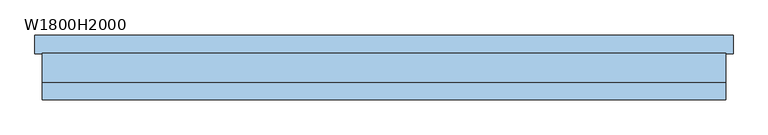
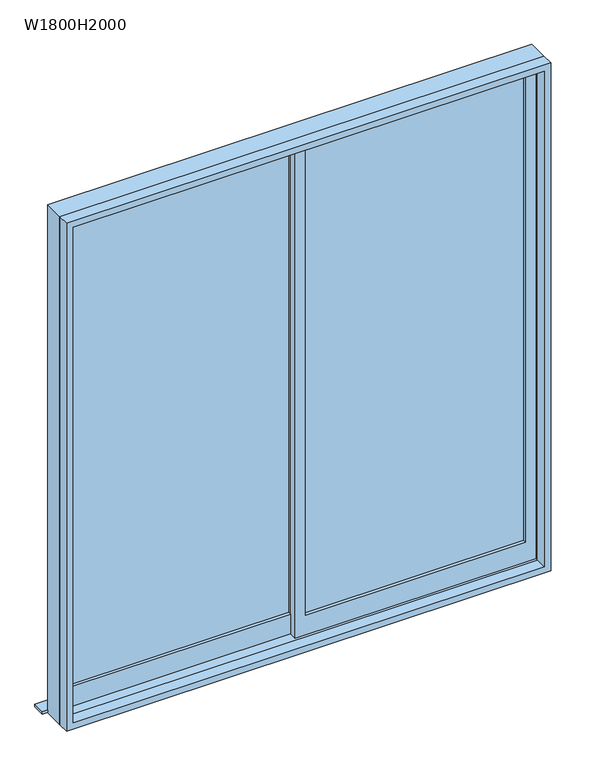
"""IFC4 building model written with IfcOpenShell, lengths in millimetres: window geometry, 引違い掃出窓_2枚 : W1800H2000."""

from ifc_helpers import new_model, si_unit, frame, origin, place, context, project, spatial, polyline, outline, extrude, source, transform, mapped, element, save


def w1800h2000_fa731eca(model_context):
    return source(origin(), model_context, "Body", "SweptSolid", [
        extrude(outline(polyline([(-20.0, 12.5), (-860.0, 12.5), (-860.0, 17.5), (-20.0, 17.5), (-20.0, 12.5)])), frame((0.0, 0.0, 80.0), z_axis=(0.0, 0.0, 1.0), x_axis=(1.0, 0.0, 0.0)), (0.0, 0.0, 1.0), 1880.0),
        extrude(outline(polyline([(860.0, -17.5), (20.0, -17.5), (20.0, -12.5), (860.0, -12.5), (860.0, -17.5)])), frame((0.0, 0.0, 80.0), z_axis=(0.0, 0.0, 1.0), x_axis=(1.0, 0.0, 0.0)), (0.0, 0.0, 1.0), 1880.0),
        extrude(outline(polyline([(2000.0, -20.0), (0.0, -20.0), (0.0, 900.0), (2000.0, 900.0), (2000.0, -20.0)]), holes=[polyline([(80.0, 860.0), (80.0, 20.0), (1960.0, 20.0), (1960.0, 860.0), (80.0, 860.0)])]), frame((0.0, -30.0, 0.0), z_axis=(0.0, 1.0, 0.0), x_axis=(0.0, 0.0, 1.0)), (0.0, 0.0, 1.0), 30.0),
        extrude(outline(polyline([(2000.0, -900.0), (0.0, -900.0), (0.0, 20.0), (2000.0, 20.0), (2000.0, -900.0)]), holes=[polyline([(80.0, -20.0), (80.0, -860.0), (1960.0, -860.0), (1960.0, -20.0), (80.0, -20.0)])]), frame((0.0, 0.0, 0.0), z_axis=(0.0, 1.0, 0.0), x_axis=(0.0, 0.0, 1.0)), (0.0, 0.0, 1.0), 30.0),
        extrude(outline(polyline([(945.0, 90.0), (945.0, 40.0), (-945.0, 40.0), (-945.0, 90.0), (945.0, 90.0)])), frame((0.0, 0.0, -25.0), z_axis=(0.0, 0.0, 1.0), x_axis=(1.0, 0.0, 0.0)), (0.0, 0.0, 1.0), 10.0),
        extrude(outline(polyline([(2025.0, 925.0), (2025.0, -925.0), (-25.0, -925.0), (-25.0, 925.0), (2025.0, 925.0)]), holes=[polyline([(0.0, -900.0), (2000.0, -900.0), (2000.0, 900.0), (0.0, 900.0), (0.0, -900.0)])]), frame((0.0, -85.0, 0.0), z_axis=(0.0, 1.0, 0.0), x_axis=(0.0, 0.0, 1.0)), (0.0, 0.0, 1.0), 45.0),
        extrude(outline(polyline([(2025.0, -925.0), (-25.0, -925.0), (-25.0, 925.0), (2025.0, 925.0), (2025.0, -925.0)]), holes=[polyline([(2000.0, 900.0), (0.0, 900.0), (0.0, -900.0), (2000.0, -900.0), (2000.0, 900.0)])]), frame((0.0, -40.0, 0.0), z_axis=(0.0, 1.0, 0.0), x_axis=(0.0, 0.0, 1.0)), (0.0, 0.0, 1.0), 80.0),
    ])


if __name__ == "__main__":
    model = new_model("IFC4")
    model_context = context("Model", 3, world=origin())
    ifc_project = project(units=[si_unit("LENGTHUNIT", "METRE", prefix="MILLI")], contexts=[model_context])
    site = spatial("IfcSite", under=ifc_project)
    building = spatial("IfcBuilding", under=site)
    placement = place(None, origin())
    w1800h2000_shape = w1800h2000_fa731eca(model_context)
    element("IfcWindow", 1, ObjectType="引違い掃出窓_2枚 : W1800H2000", at=placement, inside=building, context=model_context, shape_type="MappedRepresentation", body=[
        mapped(w1800h2000_shape, transform((0.0, 0.0, 0.0), x_axis=(1.0, 0.0, 0.0), y_axis=(0.0, 1.0, 0.0), z_axis=(0.0, 0.0, 1.0))),
    ])
    save(model, "model.ifc")
